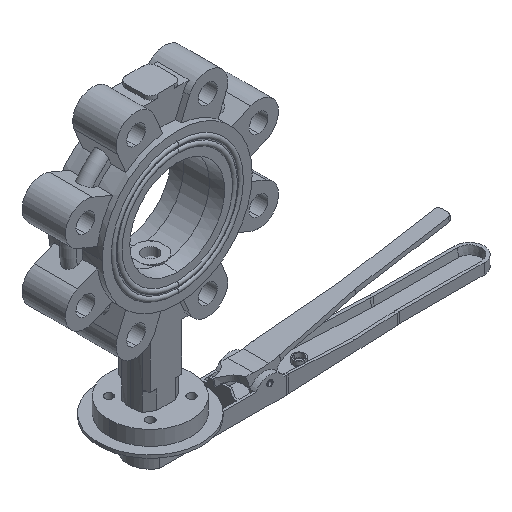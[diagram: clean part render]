
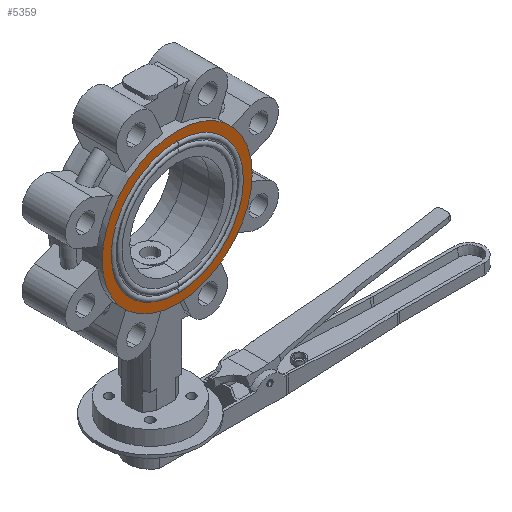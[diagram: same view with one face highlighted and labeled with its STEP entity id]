
A CAD part, isometric view. The second image highlights one B-rep face of the part: STEP entity #5359.
In plain terms, the highlighted planar face has unit normal (0, -1, 0).
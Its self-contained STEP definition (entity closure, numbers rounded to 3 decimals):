
#196 = ORIENTED_EDGE ( 'NONE', *, *, #12275, .T. ) ;
#372 = VERTEX_POINT ( 'NONE', #1809 ) ;
#660 = CIRCLE ( 'NONE', #2666, 56.25 ) ;
#818 = ORIENTED_EDGE ( 'NONE', *, *, #10405, .T. ) ;
#1032 = DIRECTION ( 'NONE',  ( 0., 1., 0. ) ) ;
#1061 = DIRECTION ( 'NONE',  ( 0., -1., 0. ) ) ;
#1081 = CARTESIAN_POINT ( 'NONE',  ( 0., -23., 56.25 ) ) ;
#1237 = AXIS2_PLACEMENT_3D ( 'NONE', #7045, #5173, #8812 ) ;
#1394 = CIRCLE ( 'NONE', #6380, 64. ) ;
#1809 = CARTESIAN_POINT ( 'NONE',  ( 0., -23., -56.25 ) ) ;
#1820 = PLANE ( 'NONE',  #7796 ) ;
#2004 = FACE_OUTER_BOUND ( 'NONE', #6115, .T. ) ;
#2487 = DIRECTION ( 'NONE',  ( 0., 0., 1. ) ) ;
#2666 = AXIS2_PLACEMENT_3D ( 'NONE', #10027, #8846, #7139 ) ;
#3205 = EDGE_LOOP ( 'NONE', ( #196, #818 ) ) ;
#4332 = VERTEX_POINT ( 'NONE', #10036 ) ;
#4579 = EDGE_CURVE ( 'NONE', #4332, #5570, #1394, .T. ) ;
#4683 = FACE_BOUND ( 'NONE', #3205, .T. ) ;
#4864 = DIRECTION ( 'NONE',  ( 0., 0., -1. ) ) ;
#5173 = DIRECTION ( 'NONE',  ( 0., 1., 0. ) ) ;
#5359 = ADVANCED_FACE ( 'NONE', ( #2004, #4683 ), #1820, .T. ) ;
#5570 = VERTEX_POINT ( 'NONE', #9756 ) ;
#6115 = EDGE_LOOP ( 'NONE', ( #10140, #7381 ) ) ;
#6380 = AXIS2_PLACEMENT_3D ( 'NONE', #6833, #1032, #6653 ) ;
#6653 = DIRECTION ( 'NONE',  ( 0., 0., -1. ) ) ;
#6793 = EDGE_CURVE ( 'NONE', #5570, #4332, #10231, .T. ) ;
#6833 = CARTESIAN_POINT ( 'NONE',  ( 0., -23., 0. ) ) ;
#7045 = CARTESIAN_POINT ( 'NONE',  ( 0., -23., 0. ) ) ;
#7139 = DIRECTION ( 'NONE',  ( 0., 0., 1. ) ) ;
#7293 = AXIS2_PLACEMENT_3D ( 'NONE', #8991, #11850, #2487 ) ;
#7381 = ORIENTED_EDGE ( 'NONE', *, *, #4579, .F. ) ;
#7661 = VERTEX_POINT ( 'NONE', #1081 ) ;
#7796 = AXIS2_PLACEMENT_3D ( 'NONE', #12387, #1061, #4864 ) ;
#8812 = DIRECTION ( 'NONE',  ( 0., 0., -1. ) ) ;
#8846 = DIRECTION ( 'NONE',  ( 0., 1., 0. ) ) ;
#8991 = CARTESIAN_POINT ( 'NONE',  ( 0., -23., 0. ) ) ;
#9756 = CARTESIAN_POINT ( 'NONE',  ( -64., -23., 0. ) ) ;
#10027 = CARTESIAN_POINT ( 'NONE',  ( 0., -23., 0. ) ) ;
#10036 = CARTESIAN_POINT ( 'NONE',  ( 64., -23., 0. ) ) ;
#10140 = ORIENTED_EDGE ( 'NONE', *, *, #6793, .F. ) ;
#10231 = CIRCLE ( 'NONE', #1237, 64. ) ;
#10405 = EDGE_CURVE ( 'NONE', #372, #7661, #660, .T. ) ;
#11307 = CIRCLE ( 'NONE', #7293, 56.25 ) ;
#11850 = DIRECTION ( 'NONE',  ( 0., 1., 0. ) ) ;
#12275 = EDGE_CURVE ( 'NONE', #7661, #372, #11307, .T. ) ;
#12387 = CARTESIAN_POINT ( 'NONE',  ( 56.25, -23., 0. ) ) ;
